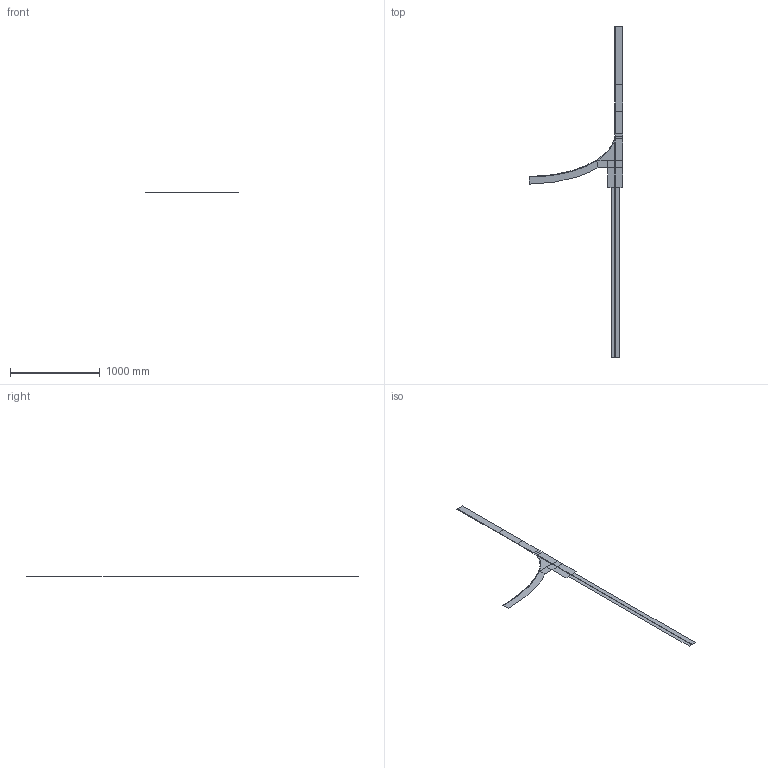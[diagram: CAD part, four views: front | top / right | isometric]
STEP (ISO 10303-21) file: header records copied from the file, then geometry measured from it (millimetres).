
FILE_DESCRIPTION( ( 'STEP Version 203' ), '1' );
FILE_NAME( 'R:/FEA/Themal_Structural_Hot_BOX/Image/Treater Vessel.stp', '10/10/20 09:21:09', ( 'RAKESH' ), ( ' ' ), 'PSStep 21.0.47', 'DesignModeler STEP Output', ' ' );
FILE_SCHEMA( ( 'CONFIG_CONTROL_DESIGN' ) );
Length unit declared in the file: metre
Products named in the file (4): Shell; Skirt; Insulation_Outer; Insulation_Inner
Bounding box: 1037 x 3699.87 x 0 mm (x, y, z)
Surface area: 461270.2 mm2 (no closed solid volume)
Topology: 0 solids, 26 shells, 26 faces, 107 edges, 107 vertices
Faces by surface type: plane 26
Entity records: 1328 total; most frequent: CARTESIAN_POINT 399, DIRECTION 155, ORIENTED_EDGE 107, EDGE_CURVE 107, VERTEX_POINT 107, LINE 95, VECTOR 95, AXIS2_PLACEMENT_3D 30
